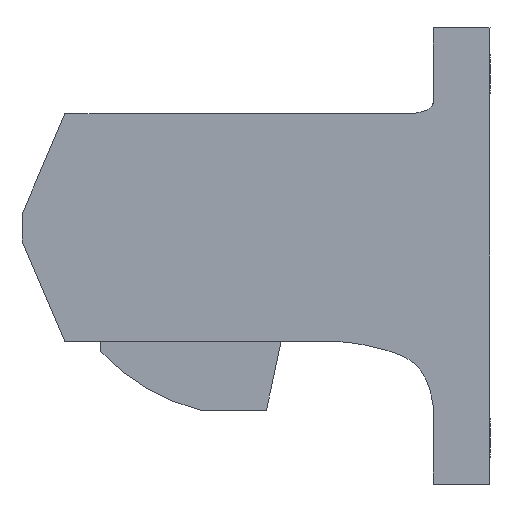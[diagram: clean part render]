
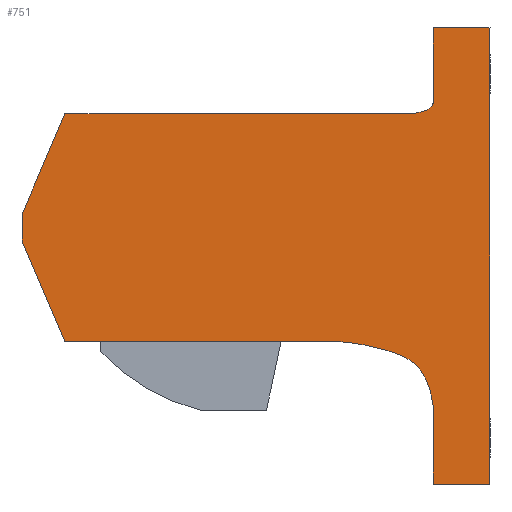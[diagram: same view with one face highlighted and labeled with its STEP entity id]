
A CAD part, left-side view. The second image highlights one B-rep face of the part: STEP entity #751.
In plain terms, the highlighted planar face has unit normal (-1, 0, 0).
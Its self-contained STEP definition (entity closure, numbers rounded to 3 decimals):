
#10 = CARTESIAN_POINT ( 'NONE',  ( -14.65, 0.36, 21.493 ) ) ;
#30 = CARTESIAN_POINT ( 'NONE',  ( -14.65, -31.997, 15.866 ) ) ;
#37 = DIRECTION ( 'NONE',  ( 0., -0.394, 0.919 ) ) ;
#46 = CARTESIAN_POINT ( 'NONE',  ( -14.65, -31.919, 42.242 ) ) ;
#47 = VERTEX_POINT ( 'NONE', #449 ) ;
#51 = DIRECTION ( 'NONE',  ( 0., 0., -1. ) ) ;
#76 = DIRECTION ( 'NONE',  ( 0., 0.394, 0.919 ) ) ;
#82 = ORIENTED_EDGE ( 'NONE', *, *, #482, .T. ) ;
#87 = EDGE_LOOP ( 'NONE', ( #895, #82, #371, #609, #243, #391, #676, #800, #235, #472, #851, #736, #303 ) ) ;
#95 = LINE ( 'NONE', #639, #560 ) ;
#96 = CARTESIAN_POINT ( 'NONE',  ( -14.65, -31.024, 19.796 ) ) ;
#109 = CARTESIAN_POINT ( 'NONE',  ( -14.65, -31.997, 28.992 ) ) ;
#113 = LINE ( 'NONE', #109, #334 ) ;
#135 = CIRCLE ( 'NONE', #661, 0.435 ) ;
#136 = CARTESIAN_POINT ( 'NONE',  ( -14.65, -31.858, 42.132 ) ) ;
#154 = B_SPLINE_CURVE_WITH_KNOTS ( 'NONE', 3,
 ( #320, #568, #873, #279, #549, #829, #136, #740 ),
 .UNSPECIFIED., .F., .F.,
 ( 4, 1, 1, 1, 1, 4 ),
 ( 0., 0.001, 0.001, 0.001, 0.002, 0.002 ),
 .UNSPECIFIED. ) ;
#176 = VECTOR ( 'NONE', #412, 1000. ) ;
#177 = VECTOR ( 'NONE', #662, 1000. ) ;
#179 = CARTESIAN_POINT ( 'NONE',  ( -14.65, 0.36, 21.493 ) ) ;
#194 = LINE ( 'NONE', #521, #416 ) ;
#206 = AXIS2_PLACEMENT_3D ( 'NONE', #779, #528, #51 ) ;
#214 = CARTESIAN_POINT ( 'NONE',  ( -14.65, 4.137, 30.308 ) ) ;
#229 = PLANE ( 'NONE',  #206 ) ;
#231 = LINE ( 'NONE', #503, #176 ) ;
#233 = VERTEX_POINT ( 'NONE', #601 ) ;
#235 = ORIENTED_EDGE ( 'NONE', *, *, #418, .F. ) ;
#243 = ORIENTED_EDGE ( 'NONE', *, *, #769, .F. ) ;
#251 = LINE ( 'NONE', #730, #505 ) ;
#279 = CARTESIAN_POINT ( 'NONE',  ( -14.65, -31.255, 41.735 ) ) ;
#282 = VERTEX_POINT ( 'NONE', #542 ) ;
#290 = CARTESIAN_POINT ( 'NONE',  ( -14.65, -31.997, 15.866 ) ) ;
#292 = DIRECTION ( 'NONE',  ( 0., 0., 1. ) ) ;
#293 = CARTESIAN_POINT ( 'NONE',  ( -14.65, -22.997, 21.492 ) ) ;
#303 = ORIENTED_EDGE ( 'NONE', *, *, #879, .F. ) ;
#316 = CARTESIAN_POINT ( 'NONE',  ( -14.65, -36.998, 49.042 ) ) ;
#320 = CARTESIAN_POINT ( 'NONE',  ( -14.65, -30.077, 41.492 ) ) ;
#326 = EDGE_CURVE ( 'NONE', #796, #745, #231, .T. ) ;
#331 = VERTEX_POINT ( 'NONE', #290 ) ;
#334 = VECTOR ( 'NONE', #292, 1000. ) ;
#337 = B_SPLINE_CURVE_WITH_KNOTS ( 'NONE', 3,
 ( #30, #652, #96, #643, #854, #293 ),
 .UNSPECIFIED., .F., .F.,
 ( 4, 1, 1, 4 ),
 ( 0., 0.004, 0.007, 0.012 ),
 .UNSPECIFIED. ) ;
#359 = CARTESIAN_POINT ( 'NONE',  ( -14.65, 0.36, 41.493 ) ) ;
#368 = VERTEX_POINT ( 'NONE', #214 ) ;
#371 = ORIENTED_EDGE ( 'NONE', *, *, #888, .F. ) ;
#384 = LINE ( 'NONE', #586, #177 ) ;
#391 = ORIENTED_EDGE ( 'NONE', *, *, #804, .F. ) ;
#396 = DIRECTION ( 'NONE',  ( 1., 0., 0. ) ) ;
#399 = EDGE_CURVE ( 'NONE', #536, #233, #508, .T. ) ;
#412 = DIRECTION ( 'NONE',  ( 0., 0., 1. ) ) ;
#416 = VECTOR ( 'NONE', #600, 1000. ) ;
#418 = EDGE_CURVE ( 'NONE', #331, #282, #337, .T. ) ;
#428 = EDGE_CURVE ( 'NONE', #282, #830, #501, .T. ) ;
#449 = CARTESIAN_POINT ( 'NONE',  ( -14.65, -30.077, 41.492 ) ) ;
#459 = DIRECTION ( 'NONE',  ( 0., 0., -1. ) ) ;
#460 = EDGE_CURVE ( 'NONE', #233, #555, #194, .T. ) ;
#472 = ORIENTED_EDGE ( 'NONE', *, *, #874, .F. ) ;
#482 = EDGE_CURVE ( 'NONE', #796, #880, #135, .T. ) ;
#483 = FACE_OUTER_BOUND ( 'NONE', #87, .T. ) ;
#484 = EDGE_CURVE ( 'NONE', #750, #47, #742, .T. ) ;
#488 = VECTOR ( 'NONE', #861, 1000. ) ;
#501 = LINE ( 'NONE', #782, #602 ) ;
#503 = CARTESIAN_POINT ( 'NONE',  ( -14.65, -31.998, 28.992 ) ) ;
#505 = VECTOR ( 'NONE', #869, 1000. ) ;
#508 = LINE ( 'NONE', #714, #488 ) ;
#517 = CARTESIAN_POINT ( 'NONE',  ( -14.65, -31.998, 42.492 ) ) ;
#521 = CARTESIAN_POINT ( 'NONE',  ( -14.65, -35.998, 8.942 ) ) ;
#528 = DIRECTION ( 'NONE',  ( 1., 0., 0. ) ) ;
#536 = VERTEX_POINT ( 'NONE', #316 ) ;
#539 = CARTESIAN_POINT ( 'NONE',  ( -14.65, 4.137, 32.678 ) ) ;
#542 = CARTESIAN_POINT ( 'NONE',  ( -14.65, -22.997, 21.492 ) ) ;
#545 = LINE ( 'NONE', #10, #809 ) ;
#549 = CARTESIAN_POINT ( 'NONE',  ( -14.65, -31.463, 41.814 ) ) ;
#555 = VERTEX_POINT ( 'NONE', #664 ) ;
#560 = VECTOR ( 'NONE', #37, 1000. ) ;
#568 = CARTESIAN_POINT ( 'NONE',  ( -14.65, -30.414, 41.522 ) ) ;
#586 = CARTESIAN_POINT ( 'NONE',  ( -14.65, -35.998, 49.042 ) ) ;
#600 = DIRECTION ( 'NONE',  ( 0., 1., 0. ) ) ;
#601 = CARTESIAN_POINT ( 'NONE',  ( -14.65, -36.997, 8.942 ) ) ;
#602 = VECTOR ( 'NONE', #785, 1000. ) ;
#609 = ORIENTED_EDGE ( 'NONE', *, *, #484, .F. ) ;
#619 = CARTESIAN_POINT ( 'NONE',  ( -14.65, -31.998, 49.042 ) ) ;
#639 = CARTESIAN_POINT ( 'NONE',  ( -14.65, 4.137, 32.678 ) ) ;
#643 = CARTESIAN_POINT ( 'NONE',  ( -14.65, -26.996, 21.017 ) ) ;
#652 = CARTESIAN_POINT ( 'NONE',  ( -14.65, -31.859, 17.06 ) ) ;
#661 = AXIS2_PLACEMENT_3D ( 'NONE', #812, #396, #459 ) ;
#662 = DIRECTION ( 'NONE',  ( 0., -1., 0. ) ) ;
#664 = CARTESIAN_POINT ( 'NONE',  ( -14.65, -31.997, 8.942 ) ) ;
#673 = DIRECTION ( 'NONE',  ( 0., -1., 0. ) ) ;
#676 = ORIENTED_EDGE ( 'NONE', *, *, #683, .F. ) ;
#683 = EDGE_CURVE ( 'NONE', #830, #368, #545, .T. ) ;
#714 = CARTESIAN_POINT ( 'NONE',  ( -14.65, -36.998, 28.992 ) ) ;
#730 = CARTESIAN_POINT ( 'NONE',  ( -14.65, 4.137, 28.992 ) ) ;
#736 = ORIENTED_EDGE ( 'NONE', *, *, #399, .F. ) ;
#740 = CARTESIAN_POINT ( 'NONE',  ( -14.65, -31.919, 42.242 ) ) ;
#742 = LINE ( 'NONE', #816, #792 ) ;
#745 = VERTEX_POINT ( 'NONE', #619 ) ;
#750 = VERTEX_POINT ( 'NONE', #359 ) ;
#751 = ADVANCED_FACE ( 'NONE', ( #483 ), #229, .F. ) ;
#769 = EDGE_CURVE ( 'NONE', #891, #750, #95, .T. ) ;
#779 = CARTESIAN_POINT ( 'NONE',  ( -14.65, -35.998, 28.992 ) ) ;
#782 = CARTESIAN_POINT ( 'NONE',  ( -14.65, -35.998, 21.492 ) ) ;
#785 = DIRECTION ( 'NONE',  ( 0., 1., 0. ) ) ;
#792 = VECTOR ( 'NONE', #673, 1000. ) ;
#796 = VERTEX_POINT ( 'NONE', #517 ) ;
#800 = ORIENTED_EDGE ( 'NONE', *, *, #428, .F. ) ;
#804 = EDGE_CURVE ( 'NONE', #368, #891, #251, .T. ) ;
#809 = VECTOR ( 'NONE', #76, 1000. ) ;
#812 = CARTESIAN_POINT ( 'NONE',  ( -14.65, -31.562, 42.492 ) ) ;
#816 = CARTESIAN_POINT ( 'NONE',  ( -14.65, -35.998, 41.493 ) ) ;
#829 = CARTESIAN_POINT ( 'NONE',  ( -14.65, -31.725, 41.989 ) ) ;
#830 = VERTEX_POINT ( 'NONE', #179 ) ;
#851 = ORIENTED_EDGE ( 'NONE', *, *, #460, .F. ) ;
#854 = CARTESIAN_POINT ( 'NONE',  ( -14.65, -24.442, 21.492 ) ) ;
#861 = DIRECTION ( 'NONE',  ( 0., 0., -1. ) ) ;
#869 = DIRECTION ( 'NONE',  ( 0., 0., 1. ) ) ;
#873 = CARTESIAN_POINT ( 'NONE',  ( -14.65, -30.782, 41.593 ) ) ;
#874 = EDGE_CURVE ( 'NONE', #555, #331, #113, .T. ) ;
#879 = EDGE_CURVE ( 'NONE', #745, #536, #384, .T. ) ;
#880 = VERTEX_POINT ( 'NONE', #46 ) ;
#888 = EDGE_CURVE ( 'NONE', #47, #880, #154, .T. ) ;
#891 = VERTEX_POINT ( 'NONE', #539 ) ;
#895 = ORIENTED_EDGE ( 'NONE', *, *, #326, .F. ) ;
